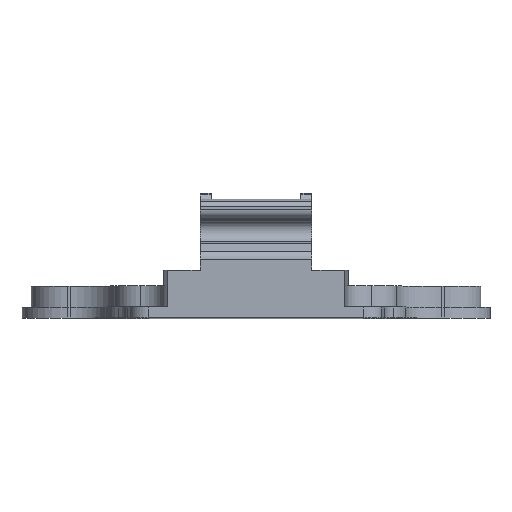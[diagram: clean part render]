
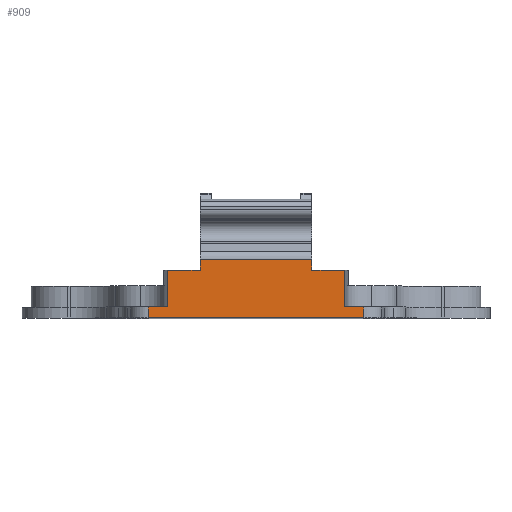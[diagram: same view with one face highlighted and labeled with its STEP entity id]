
A CAD part, top view. The second image highlights one B-rep face of the part: STEP entity #909.
In plain terms, the highlighted planar face has unit normal (0, 0, 1).
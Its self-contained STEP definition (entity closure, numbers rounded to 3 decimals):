
#24 = LINE ( 'NONE', #1349, #185 ) ;
#73 = LINE ( 'NONE', #2909, #249 ) ;
#125 = LINE ( 'NONE', #1360, #234 ) ;
#127 = VECTOR ( 'NONE', #1374, 1000. ) ;
#142 = LINE ( 'NONE', #1324, #285 ) ;
#177 = LINE ( 'NONE', #1379, #127 ) ;
#183 = VECTOR ( 'NONE', #2776, 1000. ) ;
#185 = VECTOR ( 'NONE', #1350, 1000. ) ;
#234 = VECTOR ( 'NONE', #1378, 1000. ) ;
#249 = VECTOR ( 'NONE', #2910, 1000. ) ;
#269 = CARTESIAN_POINT ( 'NONE',  ( -11.792, 0., 51.5 ) ) ;
#277 = LINE ( 'NONE', #2775, #183 ) ;
#284 = DIRECTION ( 'NONE',  ( 0., -1., 0. ) ) ;
#285 = VECTOR ( 'NONE', #1325, 1000. ) ;
#336 = CARTESIAN_POINT ( 'NONE',  ( -9.701, 1.2, 51.5 ) ) ;
#368 = CARTESIAN_POINT ( 'NONE',  ( -11.792, 1.2, 51.5 ) ) ;
#379 = CARTESIAN_POINT ( 'NONE',  ( 9.701, 1.2, 51.5 ) ) ;
#392 = CARTESIAN_POINT ( 'NONE',  ( -6.1, 5.2, 51.5 ) ) ;
#403 = CARTESIAN_POINT ( 'NONE',  ( 6.1, 5.2, 51.5 ) ) ;
#411 = CARTESIAN_POINT ( 'NONE',  ( 9.701, 5.2, 51.5 ) ) ;
#430 = CARTESIAN_POINT ( 'NONE',  ( 6.1, 6.397, 51.5 ) ) ;
#518 = CARTESIAN_POINT ( 'NONE',  ( 11.792, 1.2, 51.5 ) ) ;
#611 = CARTESIAN_POINT ( 'NONE',  ( -6.1, 6.397, 51.5 ) ) ;
#667 = CARTESIAN_POINT ( 'NONE',  ( -6.1, 7.709, 51.5 ) ) ;
#684 = DIRECTION ( 'NONE',  ( 1., 0., 0. ) ) ;
#693 = DIRECTION ( 'NONE',  ( 0., -1., 0. ) ) ;
#742 = DIRECTION ( 'NONE',  ( 1., 0., 0. ) ) ;
#745 = DIRECTION ( 'NONE',  ( 0., 0., 1. ) ) ;
#755 = PLANE ( 'NONE',  #3918 ) ;
#762 = CARTESIAN_POINT ( 'NONE',  ( 0., 0., 51.5 ) ) ;
#909 = ADVANCED_FACE ( 'NONE', ( #2694 ), #755, .T. ) ;
#948 = CARTESIAN_POINT ( 'NONE',  ( -9.701, 5.2, 51.5 ) ) ;
#961 = CARTESIAN_POINT ( 'NONE',  ( -11.792, 0., 51.5 ) ) ;
#971 = CARTESIAN_POINT ( 'NONE',  ( 11.792, 0., 51.5 ) ) ;
#1158 = CARTESIAN_POINT ( 'NONE',  ( -12.5, 1.2, 51.5 ) ) ;
#1216 = CARTESIAN_POINT ( 'NONE',  ( 6.1, -4.454, 51.5 ) ) ;
#1217 = DIRECTION ( 'NONE',  ( 0., 1., 0. ) ) ;
#1226 = CARTESIAN_POINT ( 'NONE',  ( -12.654, 0., 51.5 ) ) ;
#1227 = DIRECTION ( 'NONE',  ( -1., 0., 0. ) ) ;
#1324 = CARTESIAN_POINT ( 'NONE',  ( -12.5, 5.2, 51.5 ) ) ;
#1325 = DIRECTION ( 'NONE',  ( 1., 0., 0. ) ) ;
#1349 = CARTESIAN_POINT ( 'NONE',  ( -9.701, 3.5, 51.5 ) ) ;
#1350 = DIRECTION ( 'NONE',  ( 0., -1., 0. ) ) ;
#1360 = CARTESIAN_POINT ( 'NONE',  ( 7.747, 6.397, 51.5 ) ) ;
#1374 = DIRECTION ( 'NONE',  ( 0., 1., 0. ) ) ;
#1378 = DIRECTION ( 'NONE',  ( -1., 0., 0. ) ) ;
#1379 = CARTESIAN_POINT ( 'NONE',  ( 11.792, 1.2, 51.5 ) ) ;
#1472 = CARTESIAN_POINT ( 'NONE',  ( 9.701, 3.5, 51.5 ) ) ;
#1483 = DIRECTION ( 'NONE',  ( 0., 1., 0. ) ) ;
#1651 = LINE ( 'NONE', #269, #2462 ) ;
#1666 = VECTOR ( 'NONE', #1227, 1000. ) ;
#1685 = ORIENTED_EDGE ( 'NONE', *, *, #4365, .F. ) ;
#1695 = LINE ( 'NONE', #1226, #1666 ) ;
#1907 = VERTEX_POINT ( 'NONE', #948 ) ;
#1994 = LINE ( 'NONE', #1216, #2398 ) ;
#2023 = VERTEX_POINT ( 'NONE', #971 ) ;
#2040 = VERTEX_POINT ( 'NONE', #961 ) ;
#2083 = LINE ( 'NONE', #667, #2474 ) ;
#2094 = ORIENTED_EDGE ( 'NONE', *, *, #3788, .T. ) ;
#2100 = VERTEX_POINT ( 'NONE', #611 ) ;
#2197 = LINE ( 'NONE', #1158, #2717 ) ;
#2198 = LINE ( 'NONE', #1472, #2482 ) ;
#2246 = ORIENTED_EDGE ( 'NONE', *, *, #4185, .T. ) ;
#2250 = VERTEX_POINT ( 'NONE', #403 ) ;
#2296 = VERTEX_POINT ( 'NONE', #379 ) ;
#2299 = VERTEX_POINT ( 'NONE', #336 ) ;
#2398 = VECTOR ( 'NONE', #1217, 1000. ) ;
#2462 = VECTOR ( 'NONE', #284, 1000. ) ;
#2466 = VERTEX_POINT ( 'NONE', #411 ) ;
#2474 = VECTOR ( 'NONE', #693, 1000. ) ;
#2482 = VECTOR ( 'NONE', #1483, 1000. ) ;
#2519 = ORIENTED_EDGE ( 'NONE', *, *, #3758, .F. ) ;
#2537 = VERTEX_POINT ( 'NONE', #368 ) ;
#2581 = VERTEX_POINT ( 'NONE', #392 ) ;
#2633 = VERTEX_POINT ( 'NONE', #518 ) ;
#2662 = VERTEX_POINT ( 'NONE', #430 ) ;
#2694 = FACE_OUTER_BOUND ( 'NONE', #3629, .T. ) ;
#2717 = VECTOR ( 'NONE', #684, 1000. ) ;
#2737 = ORIENTED_EDGE ( 'NONE', *, *, #4103, .F. ) ;
#2775 = CARTESIAN_POINT ( 'NONE',  ( 12.5, 5.2, 51.5 ) ) ;
#2776 = DIRECTION ( 'NONE',  ( 1., 0., 0. ) ) ;
#2909 = CARTESIAN_POINT ( 'NONE',  ( 12.5, 1.2, 51.5 ) ) ;
#2910 = DIRECTION ( 'NONE',  ( 1., 0., 0. ) ) ;
#3502 = ORIENTED_EDGE ( 'NONE', *, *, #4167, .T. ) ;
#3503 = ORIENTED_EDGE ( 'NONE', *, *, #4093, .T. ) ;
#3504 = ORIENTED_EDGE ( 'NONE', *, *, #3777, .T. ) ;
#3505 = ORIENTED_EDGE ( 'NONE', *, *, #4188, .T. ) ;
#3506 = ORIENTED_EDGE ( 'NONE', *, *, #4158, .F. ) ;
#3507 = ORIENTED_EDGE ( 'NONE', *, *, #4217, .F. ) ;
#3508 = ORIENTED_EDGE ( 'NONE', *, *, #3910, .T. ) ;
#3629 = EDGE_LOOP ( 'NONE', ( #3508, #3507, #3503, #3505, #3504, #3506, #3502, #2519, #2094, #2737, #2246, #1685 ) ) ;
#3758 = EDGE_CURVE ( 'NONE', #2537, #2299, #2197, .T. ) ;
#3777 = EDGE_CURVE ( 'NONE', #2100, #2581, #2083, .T. ) ;
#3788 = EDGE_CURVE ( 'NONE', #2537, #2040, #1651, .T. ) ;
#3910 = EDGE_CURVE ( 'NONE', #2296, #2466, #2198, .T. ) ;
#3918 = AXIS2_PLACEMENT_3D ( 'NONE', #762, #745, #742 ) ;
#4093 = EDGE_CURVE ( 'NONE', #2250, #2662, #1994, .T. ) ;
#4103 = EDGE_CURVE ( 'NONE', #2023, #2040, #1695, .T. ) ;
#4158 = EDGE_CURVE ( 'NONE', #1907, #2581, #142, .T. ) ;
#4167 = EDGE_CURVE ( 'NONE', #1907, #2299, #24, .T. ) ;
#4185 = EDGE_CURVE ( 'NONE', #2023, #2633, #177, .T. ) ;
#4188 = EDGE_CURVE ( 'NONE', #2662, #2100, #125, .T. ) ;
#4217 = EDGE_CURVE ( 'NONE', #2250, #2466, #277, .T. ) ;
#4365 = EDGE_CURVE ( 'NONE', #2296, #2633, #73, .T. ) ;
